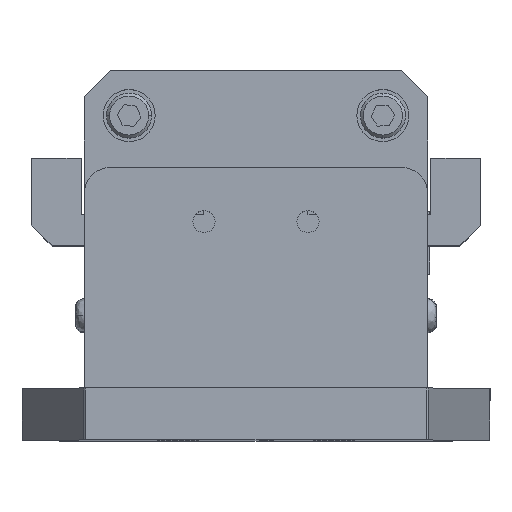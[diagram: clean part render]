
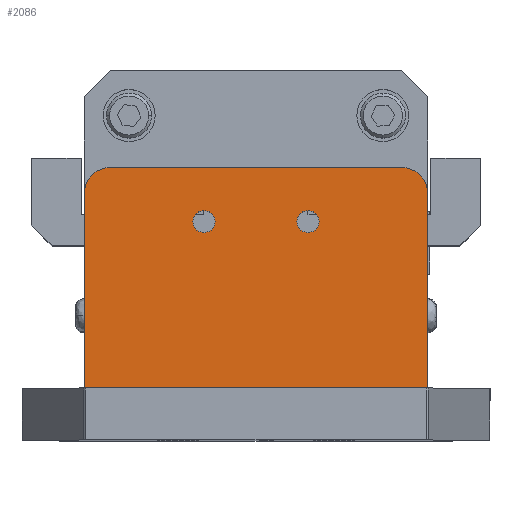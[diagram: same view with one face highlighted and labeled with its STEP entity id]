
A CAD part, top view. The second image highlights one B-rep face of the part: STEP entity #2086.
In plain terms, the highlighted planar face has unit normal (0, 0, 1).
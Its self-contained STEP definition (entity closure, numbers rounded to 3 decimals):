
#292 = ORIENTED_EDGE ( 'NONE', *, *, #480, .T. ) ;
#480 = EDGE_CURVE ( 'NONE', #3155, #7246, #16098, .T. ) ;
#540 = EDGE_CURVE ( 'NONE', #7246, #1806, #15680, .T. ) ;
#598 = EDGE_CURVE ( 'NONE', #1806, #7750, #15549, .T. ) ;
#626 = EDGE_CURVE ( 'NONE', #7750, #19713, #15300, .T. ) ;
#664 = EDGE_CURVE ( 'NONE', #19713, #5275, #15010, .T. ) ;
#678 = EDGE_CURVE ( 'NONE', #5275, #3155, #14964, .T. ) ;
#708 = EDGE_LOOP ( 'NONE', ( #4608, #20339, #292, #20566, #21040, #20828 ) ) ;
#1121 = CARTESIAN_POINT ( 'NONE',  ( 28.658, 26.67, 83.82 ) ) ;
#1771 = CARTESIAN_POINT ( 'NONE',  ( 0., 30.099, 83.82 ) ) ;
#1806 = VERTEX_POINT ( 'NONE', #1771 ) ;
#2086 = ADVANCED_FACE ( 'NONE', ( #7457, #7508, #7482 ), #3187, .T. ) ;
#2097 = CARTESIAN_POINT ( 'NONE',  ( 41.91, 30.099, 83.82 ) ) ;
#3155 = VERTEX_POINT ( 'NONE', #4559 ) ;
#3187 = PLANE ( 'NONE',  #14171 ) ;
#4234 = VERTEX_POINT ( 'NONE', #17193 ) ;
#4559 = CARTESIAN_POINT ( 'NONE',  ( 38.735, 33.274, 83.82 ) ) ;
#4608 = ORIENTED_EDGE ( 'NONE', *, *, #664, .T. ) ;
#5275 = VERTEX_POINT ( 'NONE', #2097 ) ;
#7246 = VERTEX_POINT ( 'NONE', #17864 ) ;
#7457 = FACE_OUTER_BOUND ( 'NONE', #708, .T. ) ;
#7482 = FACE_BOUND ( 'NONE', #17547, .T. ) ;
#7508 = FACE_BOUND ( 'NONE', #19950, .T. ) ;
#7681 = CIRCLE ( 'NONE', #15095, 1.353 ) ;
#7750 = VERTEX_POINT ( 'NONE', #16053 ) ;
#7824 = CIRCLE ( 'NONE', #15092, 1.353 ) ;
#8195 = DIRECTION ( 'NONE',  ( 1., 0., 0. ) ) ;
#8445 = DIRECTION ( 'NONE',  ( 0., 0., -1. ) ) ;
#8671 = CARTESIAN_POINT ( 'NONE',  ( 14.605, 26.67, 83.82 ) ) ;
#9955 = EDGE_CURVE ( 'NONE', #17862, #13168, #7681, .T. ) ;
#9977 = EDGE_CURVE ( 'NONE', #4234, #13683, #7824, .T. ) ;
#10827 = CARTESIAN_POINT ( 'NONE',  ( 15.958, 26.67, 83.82 ) ) ;
#11174 = EDGE_CURVE ( 'NONE', #13683, #4234, #13142, .T. ) ;
#11215 = EDGE_CURVE ( 'NONE', #13168, #17862, #12866, .T. ) ;
#11497 = DIRECTION ( 'NONE',  ( 1., 0., 0. ) ) ;
#11503 = DIRECTION ( 'NONE',  ( 0., 0., 1. ) ) ;
#11530 = CARTESIAN_POINT ( 'NONE',  ( 38.735, 30.099, 83.82 ) ) ;
#11685 = DIRECTION ( 'NONE',  ( 0., 1., 0. ) ) ;
#11850 = CARTESIAN_POINT ( 'NONE',  ( 41.91, 33.274, 83.82 ) ) ;
#11986 = CARTESIAN_POINT ( 'NONE',  ( 41.91, 6.35, 83.82 ) ) ;
#12120 = DIRECTION ( 'NONE',  ( 1., 0., 0. ) ) ;
#12203 = CARTESIAN_POINT ( 'NONE',  ( 41.91, 6.35, 83.82 ) ) ;
#12412 = DIRECTION ( 'NONE',  ( 0., -1., 0. ) ) ;
#12633 = CARTESIAN_POINT ( 'NONE',  ( 0., 33.274, 83.82 ) ) ;
#12866 = CIRCLE ( 'NONE', #13891, 1.353 ) ;
#13037 = DIRECTION ( 'NONE',  ( 1., 0., 0. ) ) ;
#13131 = DIRECTION ( 'NONE',  ( 0., 0., 1. ) ) ;
#13142 = CIRCLE ( 'NONE', #13921, 1.353 ) ;
#13156 = CARTESIAN_POINT ( 'NONE',  ( 3.175, 30.099, 83.82 ) ) ;
#13168 = VERTEX_POINT ( 'NONE', #10827 ) ;
#13683 = VERTEX_POINT ( 'NONE', #1121 ) ;
#13891 = AXIS2_PLACEMENT_3D ( 'NONE', #8671, #8445, #8195 ) ;
#13921 = AXIS2_PLACEMENT_3D ( 'NONE', #19128, #19092, #18860 ) ;
#14171 = AXIS2_PLACEMENT_3D ( 'NONE', #19771, #19753, #19728 ) ;
#14638 = CARTESIAN_POINT ( 'NONE',  ( 13.252, 26.67, 83.82 ) ) ;
#14964 = CIRCLE ( 'NONE', #19626, 3.175 ) ;
#15010 = LINE ( 'NONE', #11850, #15104 ) ;
#15092 = AXIS2_PLACEMENT_3D ( 'NONE', #20659, #20632, #20625 ) ;
#15095 = AXIS2_PLACEMENT_3D ( 'NONE', #20822, #20800, #20794 ) ;
#15104 = VECTOR ( 'NONE', #11685, 1000. ) ;
#15252 = VECTOR ( 'NONE', #12120, 1000. ) ;
#15300 = LINE ( 'NONE', #11986, #15252 ) ;
#15365 = VECTOR ( 'NONE', #12412, 1000. ) ;
#15549 = LINE ( 'NONE', #12633, #15365 ) ;
#15680 = CIRCLE ( 'NONE', #19677, 3.175 ) ;
#15950 = CARTESIAN_POINT ( 'NONE',  ( 41.91, 33.274, 83.82 ) ) ;
#16030 = VECTOR ( 'NONE', #16092, 1000. ) ;
#16053 = CARTESIAN_POINT ( 'NONE',  ( 0., 6.35, 83.82 ) ) ;
#16092 = DIRECTION ( 'NONE',  ( -1., 0., 0. ) ) ;
#16098 = LINE ( 'NONE', #15950, #16030 ) ;
#17193 = CARTESIAN_POINT ( 'NONE',  ( 25.952, 26.67, 83.82 ) ) ;
#17547 = EDGE_LOOP ( 'NONE', ( #22412, #22349 ) ) ;
#17862 = VERTEX_POINT ( 'NONE', #14638 ) ;
#17864 = CARTESIAN_POINT ( 'NONE',  ( 3.175, 33.274, 83.82 ) ) ;
#18860 = DIRECTION ( 'NONE',  ( 1., 0., 0. ) ) ;
#19092 = DIRECTION ( 'NONE',  ( 0., 0., -1. ) ) ;
#19128 = CARTESIAN_POINT ( 'NONE',  ( 27.305, 26.67, 83.82 ) ) ;
#19626 = AXIS2_PLACEMENT_3D ( 'NONE', #11530, #11503, #11497 ) ;
#19677 = AXIS2_PLACEMENT_3D ( 'NONE', #13156, #13131, #13037 ) ;
#19713 = VERTEX_POINT ( 'NONE', #12203 ) ;
#19728 = DIRECTION ( 'NONE',  ( 1., 0., 0. ) ) ;
#19753 = DIRECTION ( 'NONE',  ( 0., 0., 1. ) ) ;
#19771 = CARTESIAN_POINT ( 'NONE',  ( 41.91, 33.274, 83.82 ) ) ;
#19950 = EDGE_LOOP ( 'NONE', ( #20780, #22842 ) ) ;
#20339 = ORIENTED_EDGE ( 'NONE', *, *, #678, .T. ) ;
#20566 = ORIENTED_EDGE ( 'NONE', *, *, #540, .T. ) ;
#20625 = DIRECTION ( 'NONE',  ( 1., 0., 0. ) ) ;
#20632 = DIRECTION ( 'NONE',  ( 0., 0., -1. ) ) ;
#20659 = CARTESIAN_POINT ( 'NONE',  ( 27.305, 26.67, 83.82 ) ) ;
#20780 = ORIENTED_EDGE ( 'NONE', *, *, #11174, .T. ) ;
#20794 = DIRECTION ( 'NONE',  ( 1., 0., 0. ) ) ;
#20800 = DIRECTION ( 'NONE',  ( 0., 0., -1. ) ) ;
#20822 = CARTESIAN_POINT ( 'NONE',  ( 14.605, 26.67, 83.82 ) ) ;
#20828 = ORIENTED_EDGE ( 'NONE', *, *, #626, .T. ) ;
#21040 = ORIENTED_EDGE ( 'NONE', *, *, #598, .T. ) ;
#22349 = ORIENTED_EDGE ( 'NONE', *, *, #9955, .T. ) ;
#22412 = ORIENTED_EDGE ( 'NONE', *, *, #11215, .T. ) ;
#22842 = ORIENTED_EDGE ( 'NONE', *, *, #9977, .T. ) ;
